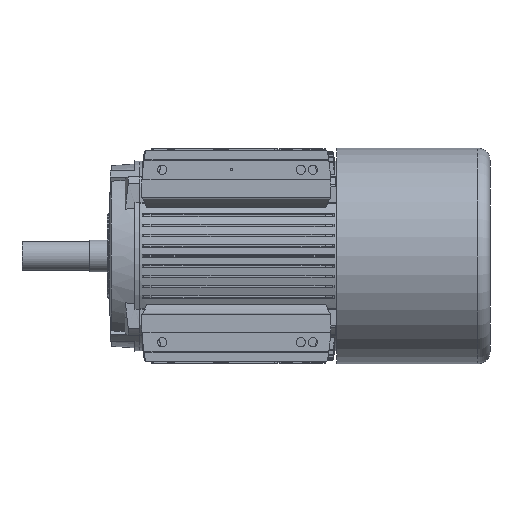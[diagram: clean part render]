
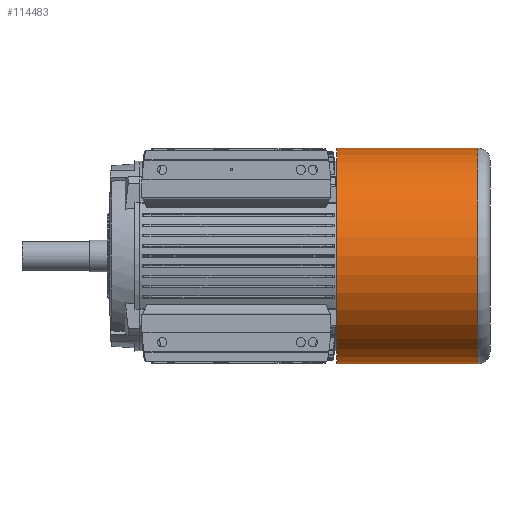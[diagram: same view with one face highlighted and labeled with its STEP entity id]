
A CAD part, front view. The second image highlights one B-rep face of the part: STEP entity #114483.
In plain terms, the highlighted cylindrical face has radius 222.5 mm (diameter 445 mm), a full revolution.
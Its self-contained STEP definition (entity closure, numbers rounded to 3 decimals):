
#114415=CARTESIAN_POINT('',(0.0,0.0,0.0));
#114416=DIRECTION('',(0.0,0.0,1.0));
#114417=DIRECTION('',(1.0,0.0,0.0));
#114418=AXIS2_PLACEMENT_3D('',#114415,#114416,#114417);
#114419=CYLINDRICAL_SURFACE('',#114418,222.5);
#114420=CARTESIAN_POINT('',(222.5,0.,185.0));
#114421=VERTEX_POINT('',#114420);
#114422=CARTESIAN_POINT('',(0.0,0.0,185.0));
#114423=DIRECTION('',(0.0,0.0,1.0));
#114424=DIRECTION('',(1.0,0.0,0.0));
#114425=AXIS2_PLACEMENT_3D('',#114422,#114423,#114424);
#114426=CIRCLE('',#114425,222.5);
#114427=EDGE_CURVE('',#114421,#114421,#114426,.T.);
#114428=ORIENTED_EDGE('',*,*,#114427,.T.);
#114429=EDGE_LOOP('',(#114428));
#114430=FACE_OUTER_BOUND('',#114429,.T.);
#114431=CARTESIAN_POINT('',(222.5,0.0,476.0));
#114432=VERTEX_POINT('',#114431);
#114433=CARTESIAN_POINT('',(0.0,0.0,476.0));
#114434=DIRECTION('',(0.0,0.0,-1.0));
#114435=DIRECTION('',(1.0,0.0,0.0));
#114436=AXIS2_PLACEMENT_3D('',#114433,#114434,#114435);
#114437=CIRCLE('',#114436,222.5);
#114438=EDGE_CURVE('',#114432,#114432,#114437,.T.);
#114439=ORIENTED_EDGE('',*,*,#114438,.T.);
#114440=EDGE_LOOP('',(#114439));
#114441=FACE_BOUND('',#114440,.T.);
#114442=CARTESIAN_POINT('',(0.0,222.5,320.0));
#114443=VERTEX_POINT('',#114442);
#114444=CARTESIAN_POINT('',(5.0,222.444,325.0));
#114445=CARTESIAN_POINT('',(5.,222.444,325.628));
#114446=CARTESIAN_POINT('',(4.875,222.447,326.298));
#114447=CARTESIAN_POINT('',(4.364,222.457,327.529));
#114448=CARTESIAN_POINT('',(3.979,222.465,328.092));
#114449=CARTESIAN_POINT('',(3.092,222.479,328.979));
#114450=CARTESIAN_POINT('',(2.529,222.486,329.364));
#114451=CARTESIAN_POINT('',(1.298,222.497,329.875));
#114452=CARTESIAN_POINT('',(0.628,222.5,330.0));
#114453=CARTESIAN_POINT('',(-0.628,222.5,330.0));
#114454=CARTESIAN_POINT('',(-1.298,222.497,329.875));
#114455=CARTESIAN_POINT('',(-2.529,222.486,329.364));
#114456=CARTESIAN_POINT('',(-3.092,222.479,328.979));
#114457=CARTESIAN_POINT('',(-3.979,222.465,328.092));
#114458=CARTESIAN_POINT('',(-4.364,222.457,327.529));
#114459=CARTESIAN_POINT('',(-4.875,222.447,326.298));
#114460=CARTESIAN_POINT('',(-5.0,222.444,325.628));
#114461=CARTESIAN_POINT('',(-5.0,222.444,324.372));
#114462=CARTESIAN_POINT('',(-4.875,222.447,323.702));
#114463=CARTESIAN_POINT('',(-4.364,222.457,322.471));
#114464=CARTESIAN_POINT('',(-3.979,222.465,321.908));
#114465=CARTESIAN_POINT('',(-3.092,222.479,321.021));
#114466=CARTESIAN_POINT('',(-2.529,222.486,320.636));
#114467=CARTESIAN_POINT('',(-1.298,222.497,320.125));
#114468=CARTESIAN_POINT('',(-0.628,222.5,320.0));
#114469=CARTESIAN_POINT('',(0.628,222.5,320.0));
#114470=CARTESIAN_POINT('',(1.298,222.497,320.125));
#114471=CARTESIAN_POINT('',(2.529,222.486,320.636));
#114472=CARTESIAN_POINT('',(3.092,222.479,321.021));
#114473=CARTESIAN_POINT('',(3.979,222.465,321.908));
#114474=CARTESIAN_POINT('',(4.364,222.457,322.471));
#114475=CARTESIAN_POINT('',(4.875,222.447,323.702));
#114476=CARTESIAN_POINT('',(5.0,222.444,324.372));
#114477=CARTESIAN_POINT('',(5.0,222.444,325.0));
#114478=B_SPLINE_CURVE_WITH_KNOTS('',3,(#114444,#114445,#114446,#114447,#114448,#114449,#114450,#114451,#114452,#114453,#114454,#114455,#114456,#114457,#114458,#114459,#114460,#114461,#114462,#114463,#114464,#114465,#114466,#114467,#114468,#114469,#114470,#114471,#114472,#114473,#114474,#114475,#114476,#114477),.UNSPECIFIED.,.T.,.U.,(4,2,2,2,2,2,2,2,2,2,2,2,2,2,2,2,4),(-3.014,-2.825,-2.637,-2.449,-2.26,-2.072,-1.884,-1.695,-1.507,-1.318,-1.13,-0.942,-0.753,-0.565,-0.377,-0.188,0.0),.UNSPECIFIED.);
#114479=EDGE_CURVE('',#114443,#114443,#114478,.T.);
#114480=ORIENTED_EDGE('',*,*,#114479,.T.);
#114481=EDGE_LOOP('',(#114480));
#114482=FACE_BOUND('',#114481,.T.);
#114483=ADVANCED_FACE('',(#114430,#114441,#114482),#114419,.T.);
